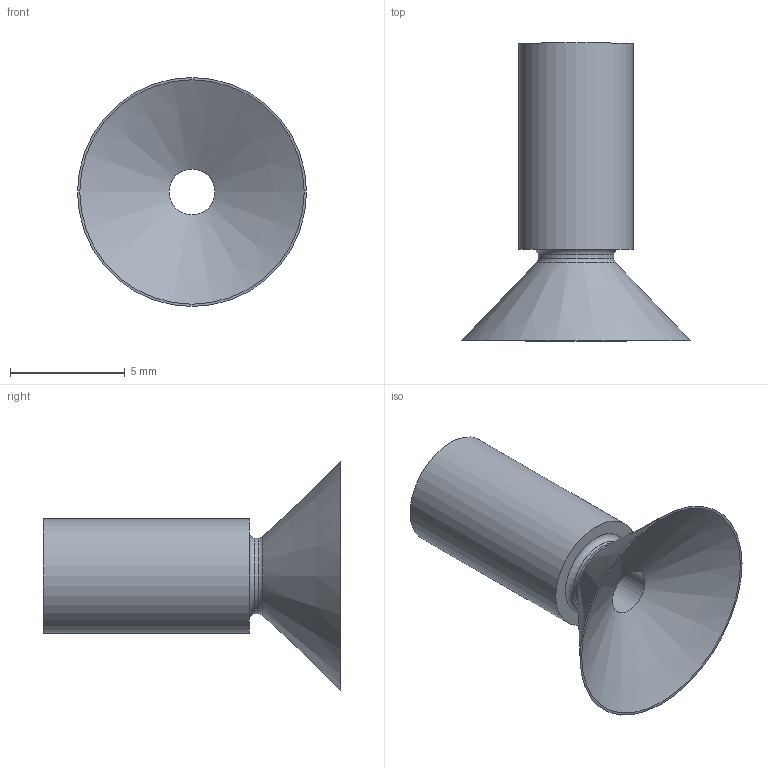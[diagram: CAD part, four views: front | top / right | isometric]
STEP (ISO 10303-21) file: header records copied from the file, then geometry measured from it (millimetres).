
FILE_DESCRIPTION (( 'STEP AP214' ), '1' );
FILE_NAME ('10F.010.003.STEP', '2025-08-15T11:52:15', ( '' ), ( '' ), 'SwSTEP 2.0', 'SolidWorks 2025', '' );
FILE_SCHEMA (( 'AUTOMOTIVE_DESIGN' ));
Length unit declared in the file: millimetre
Products named in the file (1): 10F.010.003
Bounding box: 10 x 13 x 10 mm (x, y, z)
Volume: 183.5 mm3; surface area: 451.2 mm2
Topology: 1 solids, 1 shells, 12 faces, 21 edges, 12 vertices
Faces by surface type: cylinder 4, plane 3, cone 3, torus 2
Full cylindrical faces by diameter (mm): 2 x1, 3 x1, 3.3 x1, 5 x1
Entity records: 271 total; most frequent: DIRECTION 50, CARTESIAN_POINT 37, AXIS2_PLACEMENT_3D 25, ORIENTED_EDGE 24, EDGE_LOOP 24, FACE_OUTER_BOUND 18, ADVANCED_FACE 12, VERTEX_POINT 12
